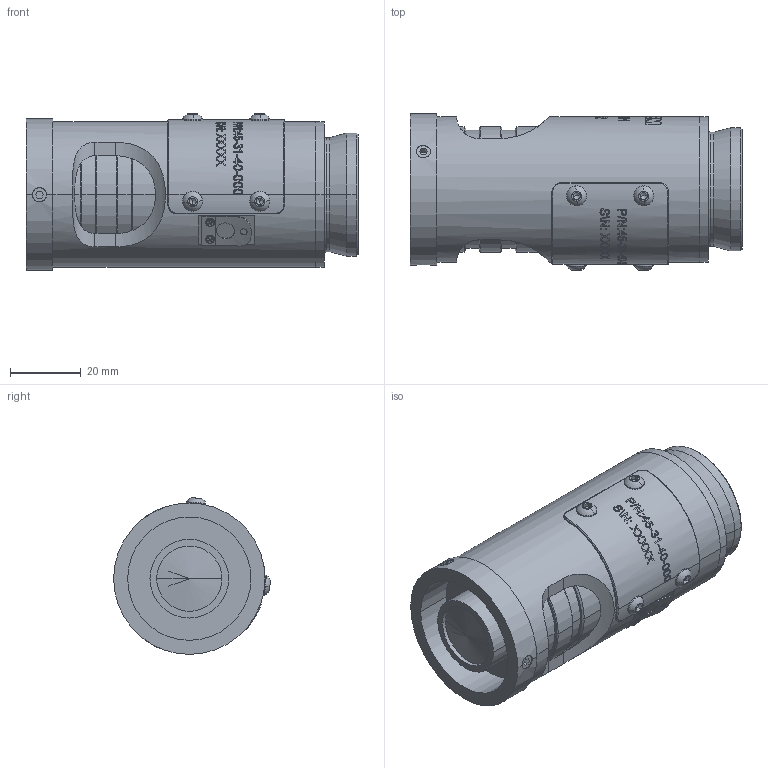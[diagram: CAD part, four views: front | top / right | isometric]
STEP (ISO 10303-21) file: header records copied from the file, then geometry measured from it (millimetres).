
FILE_DESCRIPTION (( 'STEP AP203' ), '1' );
FILE_NAME ('45-31-40-000 OUTLINE.STEP', '2020-07-14T00:55:30', ( '' ), ( '' ), 'SwSTEP 2.0', 'SolidWorks 2018', '' );
FILE_SCHEMA (( 'CONFIG_CONTROL_DESIGN' ));
Length unit declared in the file: inch
Products named in the file (1): 45-31-40-000 OUTLINE
Bounding box: 94.08 x 44.41 x 44.41 mm (x, y, z)
Volume: 100982.8 mm3; surface area: 26812.8 mm2
Topology: 9 solids, 9 shells, 981 faces, 2561 edges, 1672 vertices
Faces by surface type: plane 422, bspline 265, cylinder 190, cone 64, torus 32, sphere 8
Entity records: 54182 total; most frequent: CARTESIAN_POINT 32263, ORIENTED_EDGE 5074, DIRECTION 3605, EDGE_CURVE 2537, VERTEX_POINT 1672, AXIS2_PLACEMENT_3D 1366, EDGE_LOOP 1099, B_SPLINE_CURVE_WITH_KNOTS 1015
